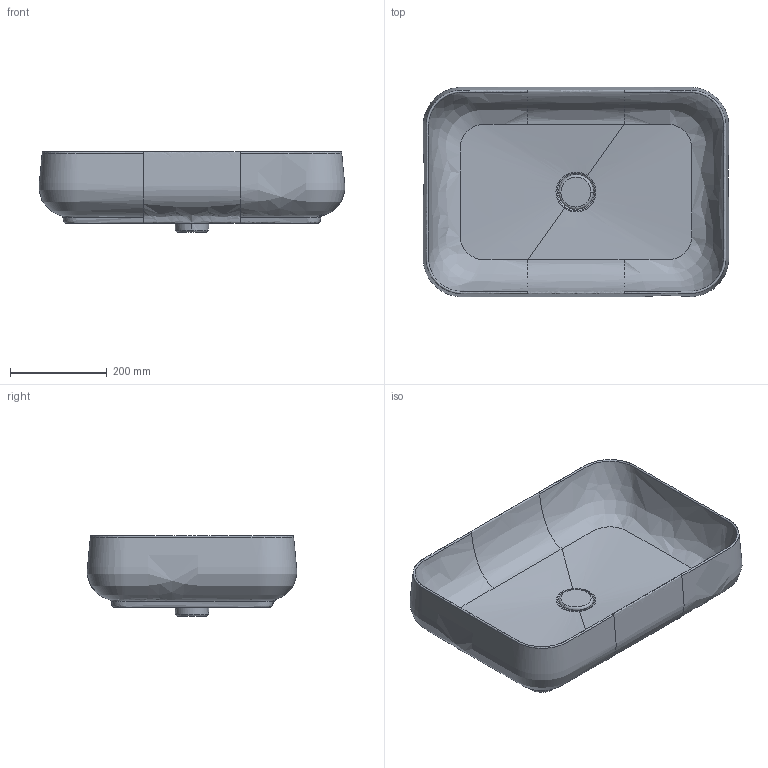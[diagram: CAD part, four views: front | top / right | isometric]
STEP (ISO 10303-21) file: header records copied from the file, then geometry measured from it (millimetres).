
FILE_DESCRIPTION(/* description */ (''),/* implementation_level */ '2;1');
FILE_NAME(/* name */ 'QUBE_3',/* time_stamp */ '2020-11-16T10:36:37+01:00',/* author */ (''),/* organization */ (''),/* preprocessor_version */ 'ST-DEVELOPER v15',/* originating_system */ '',/* authorisation */ '');
FILE_SCHEMA (('AUTOMOTIVE_DESIGN'));
Length unit declared in the file: millimetre
Products named in the file (1): Document
Bounding box: 632.71 x 433.69 x 166.48 mm (x, y, z)
Volume: 8502300.3 mm3; surface area: 914567.4 mm2
Topology: 2 solids, 2 shells, 40 faces, 100 edges, 62 vertices
Faces by surface type: bspline 36, plane 4
Entity records: 19888 total; most frequent: CARTESIAN_POINT 19304, ORIENTED_EDGE 200, EDGE_CURVE 100, VERTEX_POINT 62, ADVANCED_FACE 40, FACE_OUTER_BOUND 40, EDGE_LOOP 40, B_SPLINE_CURVE_WITH_KNOTS 33
